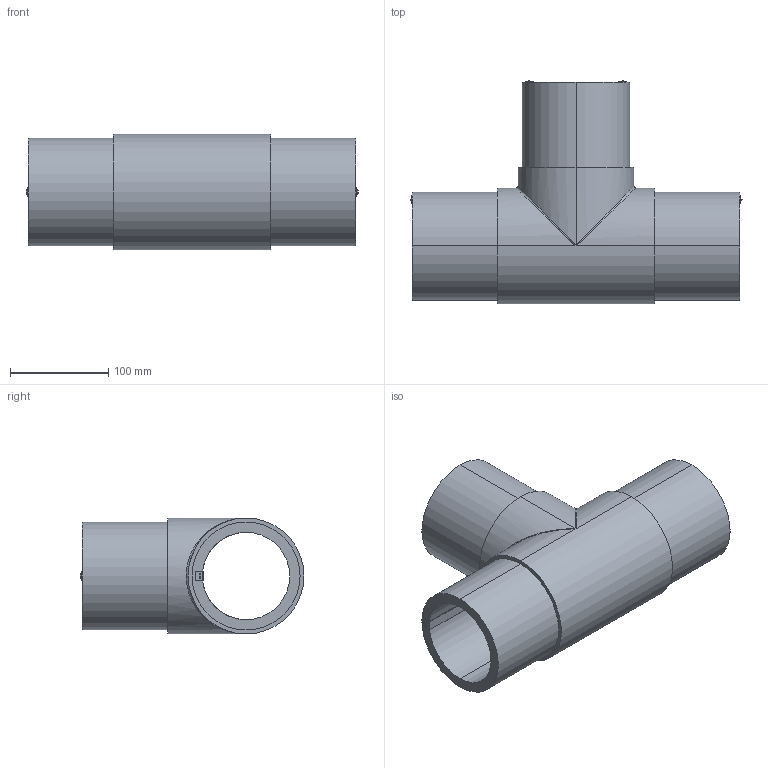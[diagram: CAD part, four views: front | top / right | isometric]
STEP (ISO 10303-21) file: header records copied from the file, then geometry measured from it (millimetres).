
FILE_DESCRIPTION (( 'STEP AP214' ), '1' );
FILE_NAME ('KP_8-110FC03.STEP', '2014-01-20T10:37:05', ( 'robinj' ), ( 'Microsoft' ), 'SwSTEP 2.0', 'SolidWorks 2014', '' );
FILE_SCHEMA (( 'AUTOMOTIVE_DESIGN' ));
Length unit declared in the file: millimetre
Products named in the file (1): KP_8-110FC03
Bounding box: 338.2 x 228.1 x 118 mm (x, y, z)
Volume: 1678303.8 mm3; surface area: 300196 mm2
Topology: 1 solids, 1 shells, 76 faces, 212 edges, 132 vertices
Faces by surface type: plane 30, cylinder 28, torus 16, bspline 2
Entity records: 3248 total; most frequent: CARTESIAN_POINT 673, DIRECTION 448, ORIENTED_EDGE 416, EDGE_CURVE 208, AXIS2_PLACEMENT_3D 175, VERTEX_POINT 132, CIRCLE 100, VECTOR 98
